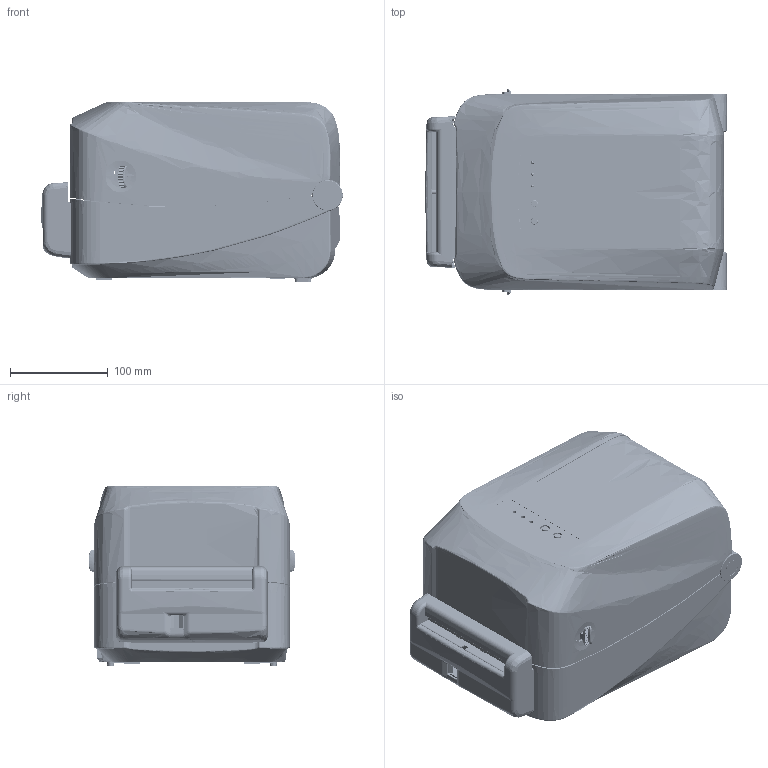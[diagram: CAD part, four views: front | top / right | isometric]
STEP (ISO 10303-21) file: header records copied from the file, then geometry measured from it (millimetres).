
FILE_DESCRIPTION((''),'2;1');
FILE_NAME('1-SID-B438-ASM_ASM_ASM','2020-12-09T',('admin'),(''),'PRO/ENGINEER BY PARAMETRIC TECHNOLOGY CORPORATION, 2010280','PRO/ENGINEER BY PARAMETRIC TECHNOLOGY CORPORATION, 2010280','');
FILE_SCHEMA(('AUTOMOTIVE_DESIGN_CC2 { 1 2 10303 214 -1 1 5 2 }'));
Products named in the file (32): SID438-BASE-HSG_32; SID438-BASE-IN-HSG_412; SID438-HINGE-HSG_13; SID438-RUBBER-SHAFT_30; SID438-FLIP-IN2-HSG_262; SID438-FLIP-LENS-HSG_18; MANIFOLD_SOLID_BREP_124791; MANIFOLD_SOLID_BREP_130398; SID438-FLIP-HOOK-HSG_18_ASM; SID438-FLIP-HSG_61; 2120H-FEED-PCB-T__12; SID438-FLIP-ASM_ASM_178_ASM; POWER_BUTTON_2; SID438-PAPER-SLIDE-HSGL_57; SID438-PAPER-SLIDE-HSGR_49; SID-438-BASE-COVER-HSG_82; LB300-MAIN-PCB_4; SW_MB_ASM_ASM_25_ASM; KNIFE-BASE-BO-PLT_12; C6GAIBAN_2; KNIGE-BASE-KNIFE_1; KNIFE-PLT-SUS_1; SUPPRT_2; KNIFE-P_3; CM-2_6X5_1; PM-3X6_1; SID438-KNIFE-PLT_5; STIFFENER_3; PRT0004; KNIFE-MASTER-ASM_ASM_78_ASM; 1-SID-B438-ASM_ASM_998_ASM; 1-SID-B438-ASM_ASM_ASM
Assembly tree (42 placements, depth 5):
  1-SID-B438-ASM_ASM_ASM
    1-SID-B438-ASM_ASM_998_ASM
      SID438-BASE-HSG_32
      SID438-BASE-IN-HSG_412
      SID438-HINGE-HSG_13
      SID438-RUBBER-SHAFT_30
      SID438-FLIP-ASM_ASM_178_ASM
        SID438-FLIP-IN2-HSG_262
        SID438-FLIP-LENS-HSG_18
        SID438-FLIP-HOOK-HSG_18_ASM
          MANIFOLD_SOLID_BREP_124791
          MANIFOLD_SOLID_BREP_130398
        SID438-FLIP-HSG_61
        2120H-FEED-PCB-T__12
      POWER_BUTTON_2
      SID438-PAPER-SLIDE-HSGL_57
      SID438-PAPER-SLIDE-HSGR_49
      SW_MB_ASM_ASM_25_ASM
        SID-438-BASE-COVER-HSG_82
        LB300-MAIN-PCB_4
      KNIFE-MASTER-ASM_ASM_78_ASM
        KNIFE-BASE-BO-PLT_12
        C6GAIBAN_2
        KNIGE-BASE-KNIFE_1  x2
        KNIFE-PLT-SUS_1
        SUPPRT_2
        KNIFE-P_3
        CM-2_6X5_1  x2
        PM-3X6_1  x10
        SID438-KNIFE-PLT_5
        STIFFENER_3
        PRT0004
Bounding box: 308 x 210.6 x 184.41 mm (x, y, z)
Volume: 1419640 mm3; surface area: 1159461.2 mm2
Topology: 37 solids, 37 shells, 7083 faces, 20299 edges, 13483 vertices
Faces by surface type: plane 4140, cylinder 1893, bspline 415, cone 327, extrusion 131, torus 99, sphere 74, revolution 4
Entity records: 266056 total; most frequent: CARTESIAN_POINT 83131, ORIENTED_EDGE 37096, DIRECTION 31208, EDGE_CURVE 18548, VERTEX_POINT 12342, VECTOR 12150, LINE 12019, AXIS2_PLACEMENT_3D 9527
